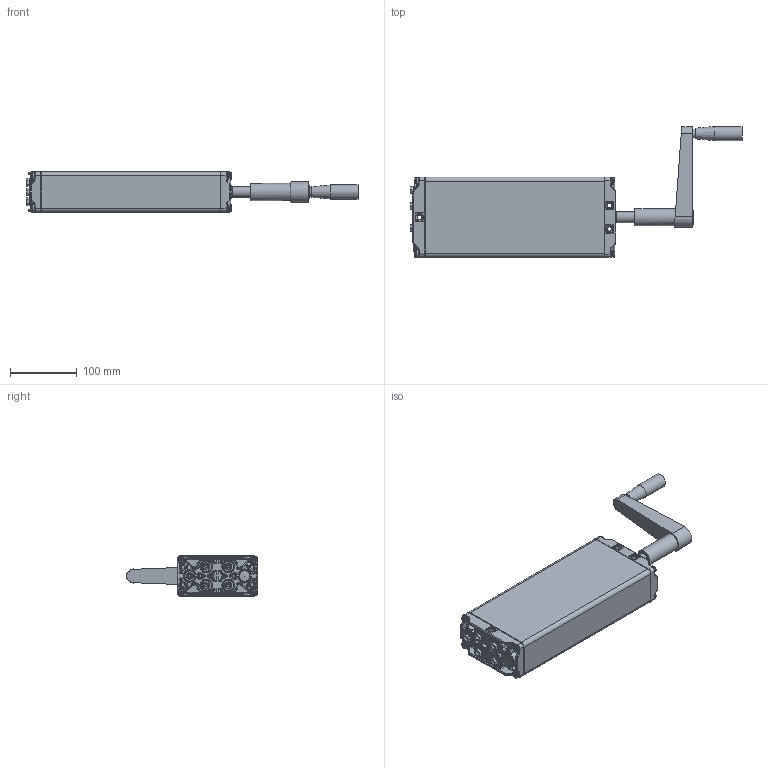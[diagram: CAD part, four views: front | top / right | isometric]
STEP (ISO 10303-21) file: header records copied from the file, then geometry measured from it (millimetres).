
FILE_DESCRIPTION(/* description */ ('Unknown'),/* implementation_level */ '2;1');
FILE_NAME(/* name */ '312.20031 Pumpe PB 5815 W mit Handkurbel',/* time_stamp */ '2016-10-21T15:46:37+02:00',/* author */ ('Unknown'),/* organization */ ('Unknown'),/* preprocessor_version */ 'ST-DEVELOPER v16.7',/* originating_system */ 'DEX',/* authorisation */ $);
FILE_SCHEMA (('AUTOMOTIVE_DESIGN {1 0 10303 214 3 1 1}'));
Products named in the file (22): 102.20031; 115.00031; 125.00045; 115.00008; 142.00021; 125.00021; 113.00005; 128.00001; 125.00052; 126.00013; 125.00053; 127.00014; Handgriff; 142.00013; 142.00110; 125.00141; 115.00140; 126.00006; 122.00040; 119.00041; 126.00005; 142.00057
Assembly tree (32 placements, depth 3):
  102.20031
    115.00031  x5
      125.00045
      115.00008
      142.00021
      125.00021
    113.00005
      128.00001
      125.00052
      126.00013
      125.00053
      127.00014
      Handgriff
    142.00013  x8
    142.00110
    125.00141
    115.00140
      126.00006
      122.00040
    119.00041
    126.00005
    142.00057
Bounding box: 495.72 x 195.5 x 60.3 mm (x, y, z)
Volume: 591361.4 mm3; surface area: 338737.4 mm2
Topology: 36 solids, 36 shells, 2638 faces, 6229 edges, 3598 vertices
Faces by surface type: plane 736, bspline 707, cylinder 589, cone 370, torus 176, sphere 60
Full cylindrical faces by diameter (mm): 3.5 x5, 4 x2, 4.1 x5, 4.2 x6, 4.917 x2, 5 x8, 6.917 x10, 8 x12, 9.8 x8, 10 x4, 10.4 x1, 12.8 x1, 13 x1, 14 x1, 14.4 x5, 15.8 x1, 16 x2, 17 x1, 17.3 x5, 17.9 x10, 18 x2, 19 x1, 20.6 x1, 21 x1, 21.2 x1, 22 x1, 25.5 x1
Entity records: 101425 total; most frequent: CARTESIAN_POINT 55720, ORIENTED_EDGE 8542, DIRECTION 6973, EDGE_CURVE 4271, AXIS2_PLACEMENT_3D 2807, VERTEX_POINT 2633, FACE_BOUND 2124, EDGE_LOOP 2121
